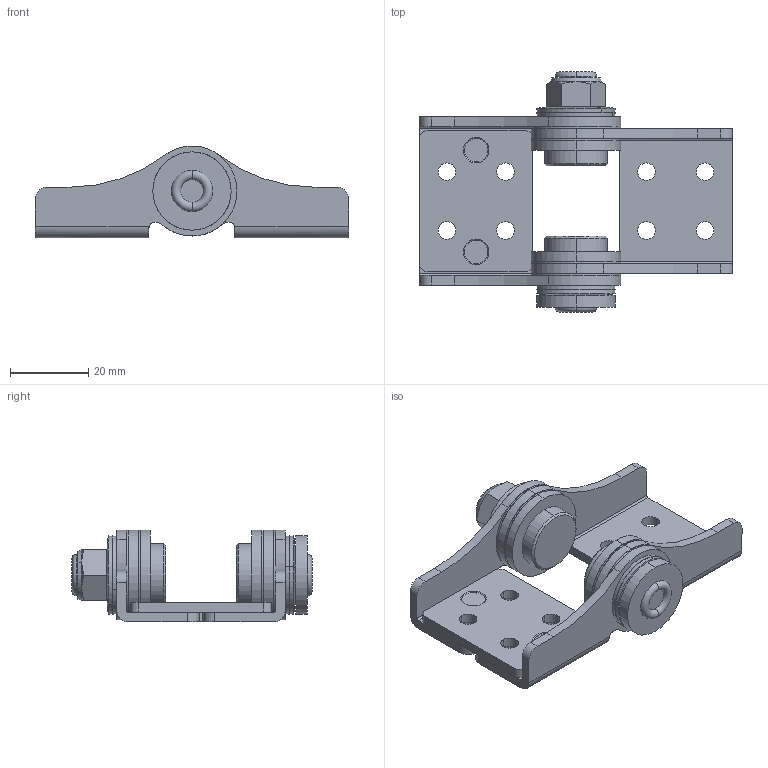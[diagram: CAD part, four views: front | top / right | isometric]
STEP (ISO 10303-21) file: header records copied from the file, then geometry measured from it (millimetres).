
FILE_DESCRIPTION (( 'STEP AP203' ), '1' );
FILE_NAME ('HG-ITJ4080_1.step', '2022-02-22T12:04:55', ( '' ), ( '' ), 'SwSTEP 2.0', 'SolidWorks 2020', '' );
FILE_SCHEMA (( 'CONFIG_CONTROL_DESIGN' ));
Length unit declared in the file: millimetre
Products named in the file (3): HG-ITJ4080_1; SC170-09253_HG-ITJ4080_僽儔働僢僩B-1^HG-ITJ4080; Group1^HG-ITJ4080
Assembly tree (2 placements, depth 2):
  HG-ITJ4080_1
    Group1^HG-ITJ4080
    SC170-09253_HG-ITJ4080_僽儔働僢僩B-1^HG-ITJ4080
Bounding box: 80 x 61.4 x 23.5 mm (x, y, z)
Volume: 25819.8 mm3; surface area: 26863.9 mm2
Topology: 20 solids, 20 shells, 257 faces, 579 edges, 356 vertices
Faces by surface type: cylinder 103, plane 92, cone 52, torus 8, bspline 2
Entity records: 7516 total; most frequent: CARTESIAN_POINT 1349, DIRECTION 1331, ORIENTED_EDGE 1126, EDGE_CURVE 563, AXIS2_PLACEMENT_3D 532, VERTEX_POINT 356, EDGE_LOOP 291, CIRCLE 272
